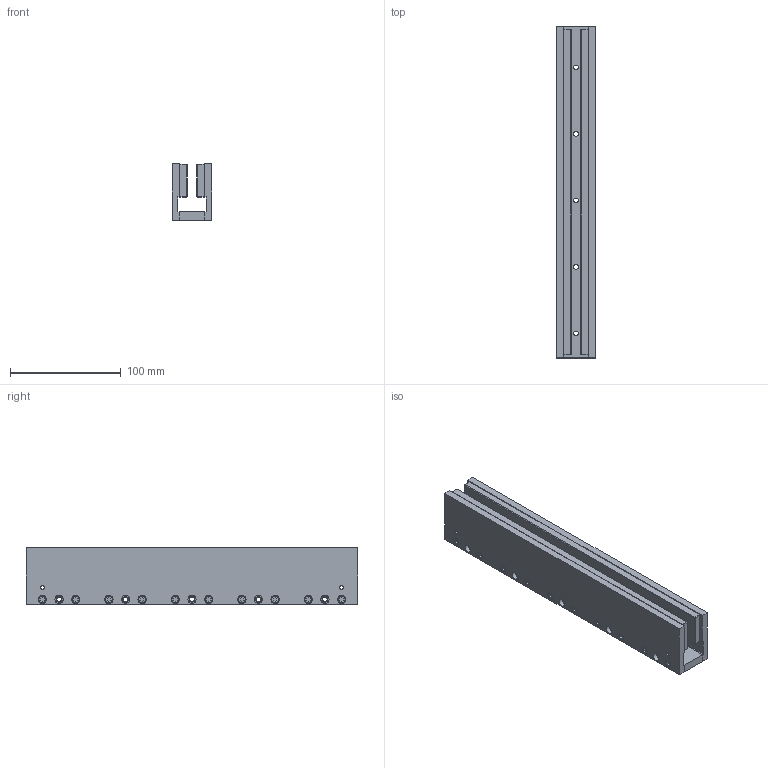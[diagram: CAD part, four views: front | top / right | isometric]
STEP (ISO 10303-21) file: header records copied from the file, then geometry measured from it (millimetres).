
FILE_DESCRIPTION (( 'STEP AP203' ), '1' );
FILE_NAME ('DX30F-TL300.step', '2021-01-04T10:14:06', ( '' ), ( '' ), 'SwSTEP 2.0', 'SolidWorks 2020', '' );
FILE_SCHEMA (( 'CONFIG_CONTROL_DESIGN' ));
Length unit declared in the file: millimetre
Products named in the file (1): DX30F-TL300
Bounding box: 35.7 x 299.5 x 50.8 mm (x, y, z)
Volume: 350686.5 mm3; surface area: 99123.3 mm2
Topology: 1 solids, 31 shells, 620 faces, 1348 edges, 856 vertices
Faces by surface type: plane 292, cylinder 272, torus 40, sphere 16
Entity records: 17065 total; most frequent: DIRECTION 3198, CARTESIAN_POINT 2809, ORIENTED_EDGE 2664, EDGE_CURVE 1332, AXIS2_PLACEMENT_3D 1245, VERTEX_POINT 856, EDGE_LOOP 770, LINE 708
